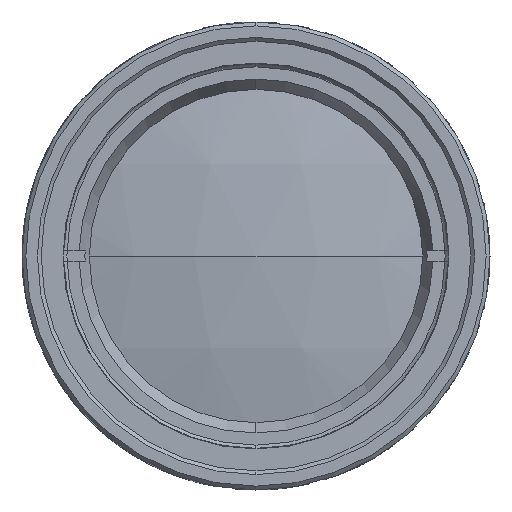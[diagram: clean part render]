
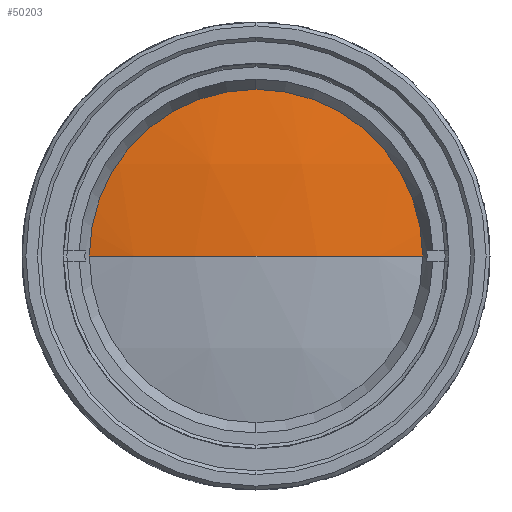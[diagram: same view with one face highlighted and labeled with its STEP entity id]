
A CAD part, left-side view. The second image highlights one B-rep face of the part: STEP entity #50203.
In plain terms, the highlighted spherical face has radius 66.568 mm.
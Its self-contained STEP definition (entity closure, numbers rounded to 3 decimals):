
#1444 = ORIENTED_EDGE ( 'NONE', *, *, #50755, .T. ) ;
#3375 = CIRCLE ( 'NONE', #61181, 14.25 ) ;
#6045 = DIRECTION ( 'NONE',  ( 1., 0., 0. ) ) ;
#11004 = AXIS2_PLACEMENT_3D ( 'NONE', #55437, #13024, #6045 ) ;
#11872 = CARTESIAN_POINT ( 'NONE',  ( -68.506, -14.25, 0. ) ) ;
#13024 = DIRECTION ( 'NONE',  ( 0., 0., 1. ) ) ;
#15125 = FACE_OUTER_BOUND ( 'NONE', #58156, .T. ) ;
#17541 = AXIS2_PLACEMENT_3D ( 'NONE', #52548, #77702, #40203 ) ;
#19635 = CIRCLE ( 'NONE', #31413, 66.568 ) ;
#19718 = VERTEX_POINT ( 'NONE', #11872 ) ;
#19806 = VERTEX_POINT ( 'NONE', #37149 ) ;
#23479 = CARTESIAN_POINT ( 'NONE',  ( -70.049, 0., 0. ) ) ;
#24088 = DIRECTION ( 'NONE',  ( 0., 1., 0. ) ) ;
#26373 = EDGE_CURVE ( 'NONE', #19718, #26858, #19635, .T. ) ;
#26858 = VERTEX_POINT ( 'NONE', #23479 ) ;
#27465 = SPHERICAL_SURFACE ( 'NONE', #17541, 66.568 ) ;
#31282 = EDGE_CURVE ( 'NONE', #77555, #19806, #39261, .T. ) ;
#31413 = AXIS2_PLACEMENT_3D ( 'NONE', #61126, #34777, #24088 ) ;
#34777 = DIRECTION ( 'NONE',  ( 0., 0., -1. ) ) ;
#35279 = ORIENTED_EDGE ( 'NONE', *, *, #31282, .T. ) ;
#35569 = CARTESIAN_POINT ( 'NONE',  ( -68.506, 0., 14.25 ) ) ;
#37149 = CARTESIAN_POINT ( 'NONE',  ( -68.506, 14.25, 0. ) ) ;
#39261 = CIRCLE ( 'NONE', #65564, 14.25 ) ;
#40203 = DIRECTION ( 'NONE',  ( 0., 1., 0. ) ) ;
#46419 = CIRCLE ( 'NONE', #11004, 66.568 ) ;
#46915 = ORIENTED_EDGE ( 'NONE', *, *, #57406, .T. ) ;
#47488 = CARTESIAN_POINT ( 'NONE',  ( -68.506, 0., 0. ) ) ;
#50203 = ADVANCED_FACE ( 'NONE', ( #15125 ), #27465, .T. ) ;
#50755 = EDGE_CURVE ( 'NONE', #19806, #26858, #46419, .T. ) ;
#52548 = CARTESIAN_POINT ( 'NONE',  ( -3.481, 0., 0. ) ) ;
#55437 = CARTESIAN_POINT ( 'NONE',  ( -3.481, 0., 0. ) ) ;
#57081 = DIRECTION ( 'NONE',  ( -1., 0., 0. ) ) ;
#57406 = EDGE_CURVE ( 'NONE', #19718, #77555, #3375, .T. ) ;
#58156 = EDGE_LOOP ( 'NONE', ( #69894, #46915, #35279, #1444 ) ) ;
#61126 = CARTESIAN_POINT ( 'NONE',  ( -3.481, 0., 0. ) ) ;
#61181 = AXIS2_PLACEMENT_3D ( 'NONE', #47488, #67640, #72182 ) ;
#64452 = DIRECTION ( 'NONE',  ( 0., 0., 1. ) ) ;
#64858 = CARTESIAN_POINT ( 'NONE',  ( -68.506, 0., 0. ) ) ;
#65564 = AXIS2_PLACEMENT_3D ( 'NONE', #64858, #57081, #64452 ) ;
#67640 = DIRECTION ( 'NONE',  ( -1., 0., 0. ) ) ;
#69894 = ORIENTED_EDGE ( 'NONE', *, *, #26373, .F. ) ;
#72182 = DIRECTION ( 'NONE',  ( 0., 0., 1. ) ) ;
#77555 = VERTEX_POINT ( 'NONE', #35569 ) ;
#77702 = DIRECTION ( 'NONE',  ( 0., 0., -1. ) ) ;
